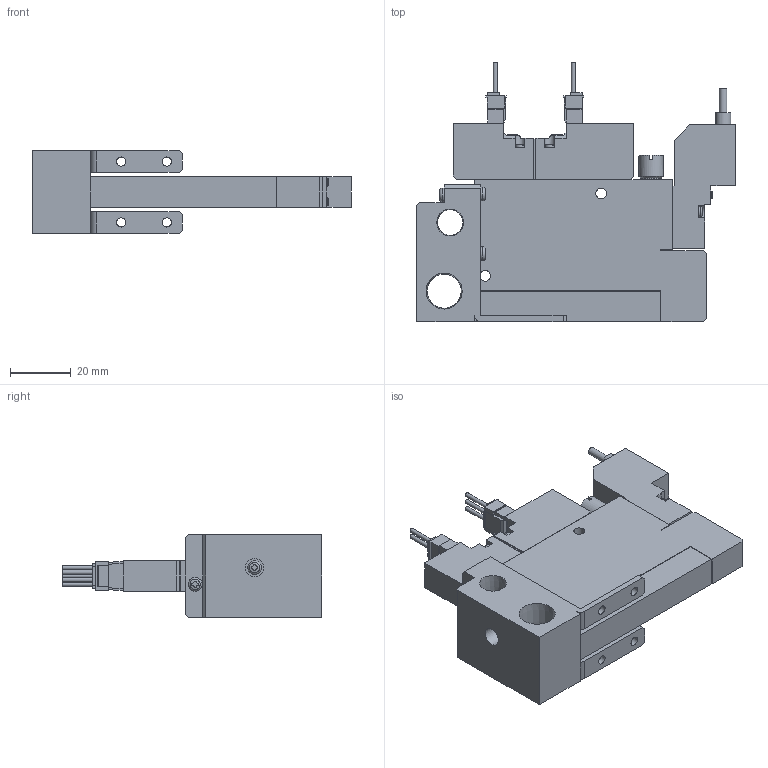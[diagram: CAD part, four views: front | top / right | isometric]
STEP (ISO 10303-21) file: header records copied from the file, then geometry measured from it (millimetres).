
FILE_DESCRIPTION(('STEP AP203'),'1');
FILE_NAME('V8C5WC101_3D.stp','2024-09-04T06:26:37',(' '),(' '),'Spatial InterOp 3D',' ',' ');
FILE_SCHEMA(('CONFIG_CONTROL_DESIGN'));
Length unit declared in the file: millimetre
Products named in the file (5): BSC1M※※V8C5WC101; Solenoid valve W; Pressure Sensor V8; Unit-C; BaseMC10R
Assembly tree (4 placements, depth 2):
  BSC1M※※V8C5WC101
    Solenoid valve W
    Pressure Sensor V8
    Unit-C
    BaseMC10R
Bounding box: 104.5 x 85.05 x 27 mm (x, y, z)
Volume: 68502.7 mm3; surface area: 25264.7 mm2
Topology: 4 solids, 4 shells, 474 faces, 1267 edges, 836 vertices
Faces by surface type: plane 348, cylinder 95, cone 13, torus 10, sphere 8
Full cylindrical faces by diameter (mm): 1.4 x5, 2.5 x5, 3 x8, 3.5 x6, 4 x1, 4.134 x2, 4.5 x6, 5 x1, 5.5 x1, 6 x1, 7 x2, 8 x1, 8.422 x1, 11.233 x1
Entity records: 14871 total; most frequent: CARTESIAN_POINT 3077, ORIENTED_EDGE 2340, DIRECTION 2310, EDGE_CURVE 1170, LINE 870, VECTOR 870, VERTEX_POINT 812, AXIS2_PLACEMENT_3D 720
